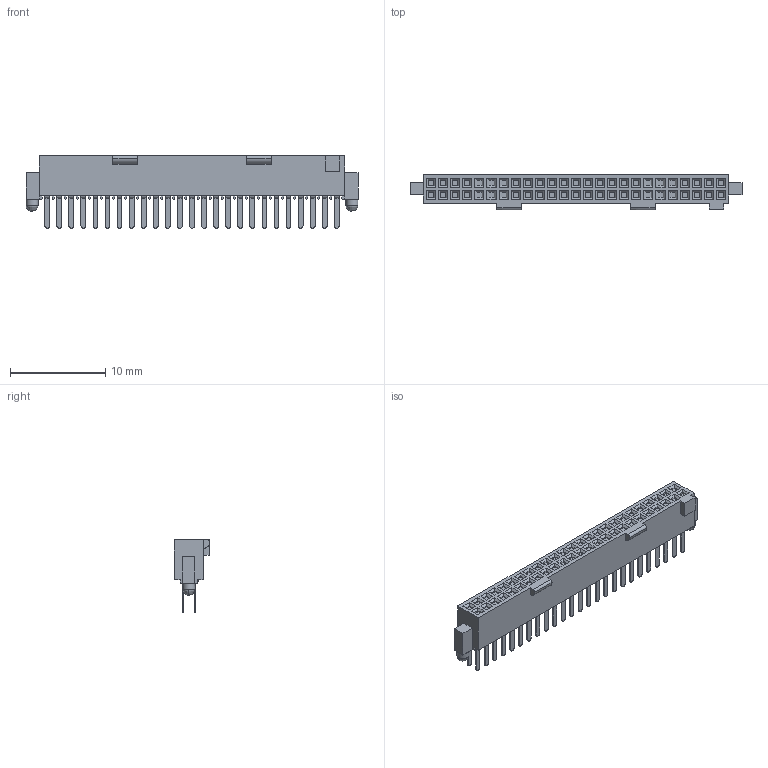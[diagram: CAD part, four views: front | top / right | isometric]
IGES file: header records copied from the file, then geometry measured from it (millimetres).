
Start section: ZWSOFT
Global section: file name: 3601-S050-B31SXXR01.igs; native system: ZW3D; preprocessor: 1.0; author: ZW3D; organization: ZWSOFT; date: 240417.100105; units: millimetre
Bounding box: 34.93 x 3.73 x 7.62 mm (x, y, z)
Surface area: 899 mm2 (no closed solid volume)
Topology: 0 solids, 0 shells, 1914 faces, 9177 edges, 9171 vertices
Faces by surface type: bspline 1914
